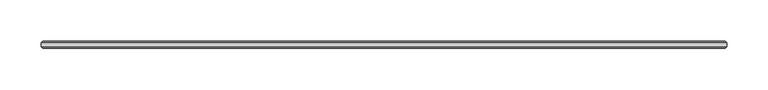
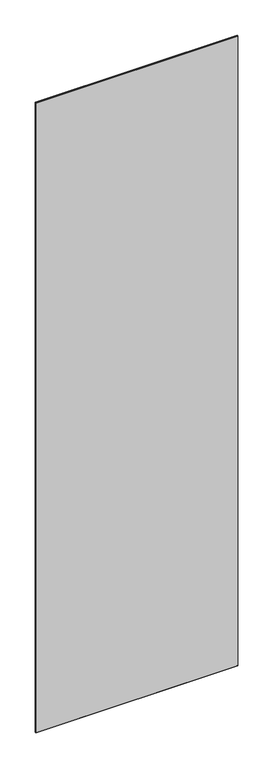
"""IFC4 building model written with IfcOpenShell, lengths in millimetres: plate geometry, 1-AMG-1-Панель одинарный витраж 8, 10 : Смещение 32 Толщина 8mm."""

import ifcopenshell
import ifcopenshell.guid

model = None  # the IFC model being written
_history = None  # IfcOwnerHistory: only IFC2X3 demands one
_inside = {}  # id of a spatial element -> (the spatial element, [elements in it])
_under = {}  # id of a project, library or spatial element -> (it, [spatial elements below it])
_declared = {}  # id of a project -> (the project, [libraries it declares])
_typed = {}  # id of a type object -> (the type object, [elements of that type])
_made_of = {}  # id of a material, layer set ... -> (it, [elements and type objects made of it])


def new_model(schema):
    """Start an empty IFC model of exactly this schema.

    Asked for "IFC4X3", IfcOpenShell would pick the latest addendum, in which some entities
    have other attributes; the version numbers below select the first issue.
    IFC2X3 requires an IfcOwnerHistory on every rooted entity: one is made here for all.
    """
    global model, _history
    if schema == "IFC4X3":
        model = ifcopenshell.file(schema_version=(4, 3, 0, 0))
    else:
        model = ifcopenshell.file(schema=schema)
    _inside.clear()
    _under.clear()
    _declared.clear()
    _typed.clear()
    _made_of.clear()
    _history = None
    if model.schema == "IFC2X3":
        org = make("IfcOrganization", Name="unknown")
        user = make(
            "IfcPersonAndOrganization",
            ThePerson=make("IfcPerson", FamilyName="unknown"),
            TheOrganization=org,
        )
        app = make(
            "IfcApplication",
            ApplicationDeveloper=org,
            Version="unknown",
            ApplicationFullName="unknown",
            ApplicationIdentifier="unknown",
        )
        _history = make(
            "IfcOwnerHistory",
            OwningUser=user,
            OwningApplication=app,
            ChangeAction="ADDED",
            CreationDate=0,
        )
    return model


def make(cls, **values):
    """One entity of the class cls with the attributes given. An attribute that is None is left unset."""
    return model.create_entity(
        cls, **{name: value for name, value in values.items() if value is not None}
    )


def rooted(cls, **values):
    """An entity with a GlobalId (a new one), such as an element, a storey or a relation."""
    return make(cls, GlobalId=ifcopenshell.guid.new(), OwnerHistory=_history, **values)


def si_unit(unit_type, name, prefix=None):
    """IfcSIUnit, for example si_unit("LENGTHUNIT", "METRE", prefix="MILLI")."""
    return make("IfcSIUnit", UnitType=unit_type, Prefix=prefix, Name=name)


def assignment(units):
    """IfcUnitAssignment: the units of a project."""
    return None if units is None else make("IfcUnitAssignment", Units=units)


def point(xyz):
    """IfcCartesianPoint."""
    return None if xyz is None else make("IfcCartesianPoint", Coordinates=xyz)


def direction(xyz):
    """IfcDirection."""
    return None if xyz is None else make("IfcDirection", DirectionRatios=xyz)


def frame(location, z_axis=None, x_axis=None):
    """IfcAxis2Placement3D, a coordinate frame: its origin and axes. An axis left out is left unset."""
    return make(
        "IfcAxis2Placement3D",
        Location=point(location),
        Axis=direction(z_axis),
        RefDirection=direction(x_axis),
    )


def origin():
    """The frame at (0, 0, 0) with its axes left unset."""
    return frame((0.0, 0.0, 0.0))


def place(relative_to, where):
    """IfcLocalPlacement: puts the frame where relative to a parent placement (None: the world)."""
    return make(
        "IfcLocalPlacement", PlacementRelTo=relative_to, RelativePlacement=where
    )


def context(
    kind, dimensions, precision=None, world=None, true_north=None, identifier=None
):
    """IfcGeometricRepresentationContext, for example the 3D "Model" context."""
    return make(
        "IfcGeometricRepresentationContext",
        ContextIdentifier=identifier,
        ContextType=kind,
        CoordinateSpaceDimension=dimensions,
        Precision=precision,
        WorldCoordinateSystem=world,
        TrueNorth=true_north,
    )


def project(units=None, contexts=None):
    """IfcProject with its units and contexts."""
    return rooted(
        "IfcProject",
        Name="project",
        RepresentationContexts=contexts,
        UnitsInContext=assignment(units),
    )


def spatial(cls, under=None, at=None, **own):
    """A site, building, storey or space (cls), placed at a placement, below another one or the project."""
    s = rooted(cls, ObjectPlacement=at, **own)
    if under is not None:
        _under.setdefault(under.id(), (under, []))[1].append(s)
    return s


def faces_of(points, faces, orient=None, outer=None):
    """IfcFace entities. A face is a list of loops; a loop is a list of indices into points, from 0.

    orient and outer hold one flag for each loop. By default every Orientation is true, the
    first loop of a face is its IfcFaceOuterBound and the others are IfcFaceBound.
    """
    made = []
    for i, loops in enumerate(faces):
        bounds = []
        for j, loop in enumerate(loops):
            is_outer = j == 0 if outer is None else outer[i][j]
            bounds.append(
                make(
                    "IfcFaceOuterBound" if is_outer else "IfcFaceBound",
                    Bound=make("IfcPolyLoop", Polygon=[points[k] for k in loop]),
                    Orientation=True if orient is None else orient[i][j],
                )
            )
        made.append(make("IfcFace", Bounds=bounds))
    return made


def faceted_brep(points, faces, orient=None, outer=None, voids=None):
    """IfcFacetedBrep: a solid bounded by flat faces; with voids (closed shells), ...WithVoids."""
    shared = [point(p) for p in points]
    hull = make("IfcClosedShell", CfsFaces=faces_of(shared, faces, orient, outer))
    if voids is None:
        return make("IfcFacetedBrep", Outer=hull)
    return make(
        "IfcFacetedBrepWithVoids",
        Outer=hull,
        Voids=[
            make(cls, CfsFaces=faces_of(shared, fs, o, b)) for cls, fs, o, b in voids
        ],
    )


def shape(context_of_items, identifier, shape_type, items):
    """IfcShapeRepresentation: the items that make up one representation, for example the "Body"."""
    return make(
        "IfcShapeRepresentation",
        ContextOfItems=context_of_items,
        RepresentationIdentifier=identifier,
        RepresentationType=shape_type,
        Items=items,
    )


def source(mapping_origin, context_of_items, identifier, shape_type, items):
    """IfcRepresentationMap: a shape defined once, which mapped items show again and again."""
    return make(
        "IfcRepresentationMap",
        MappingOrigin=mapping_origin,
        MappedRepresentation=shape(context_of_items, identifier, shape_type, items),
    )


def transform(
    local_origin,
    x_axis=None,
    y_axis=None,
    z_axis=None,
    scale=None,
    scale2=None,
    scale3=None,
    uniform=True,
):
    """IfcCartesianTransformationOperator3D, or its non-uniform kind. x_axis, y_axis, z_axis: its Axis1, 2, 3."""
    if uniform:
        return make(
            "IfcCartesianTransformationOperator3D",
            Axis1=direction(x_axis),
            Axis2=direction(y_axis),
            LocalOrigin=point(local_origin),
            Scale=scale,
            Axis3=direction(z_axis),
        )
    return make(
        "IfcCartesianTransformationOperator3DnonUniform",
        Axis1=direction(x_axis),
        Axis2=direction(y_axis),
        LocalOrigin=point(local_origin),
        Scale=scale,
        Axis3=direction(z_axis),
        Scale2=scale2,
        Scale3=scale3,
    )


def mapped(mapping_source, mapping_target):
    """IfcMappedItem: shows the shape of a source again, moved by a transform."""
    return make(
        "IfcMappedItem", MappingSource=mapping_source, MappingTarget=mapping_target
    )


def made_of(thing, what):
    """Note that an element or type object is made of a material, layer set ...; save() writes the relation."""
    if what is not None:
        _made_of.setdefault(what.id(), (what, []))[1].append(thing)
    return thing


def element(
    cls,
    number,
    at=None,
    inside=None,
    cuts=None,
    type_object=None,
    material=None,
    context=None,
    identifier="Body",
    shape_type=None,
    held_by="IfcProductDefinitionShape",
    body=None,
    shapes=None,
    **own,
):
    """One element of the class cls, such as IfcWall. Its Tag is "e" and its number.

    at: its placement. inside: the storey or other place that contains it. cuts: it is an
    opening in that element (IfcRelVoidsElement). A single representation is given by context,
    identifier, shape_type and body (its items); several are given by shapes. held_by: the class
    of the entity that holds the representations. save() writes the other relations.
    """
    e = rooted(cls, Tag="e%d" % number, ObjectPlacement=at, **own)
    if body is not None:
        shapes = [shape(context, identifier, shape_type, body)]
    if shapes is not None:
        e.Representation = make(held_by, Representations=shapes)
    if inside is not None:
        _inside.setdefault(inside.id(), (inside, []))[1].append(e)
    if cuts is not None:
        rooted(
            "IfcRelVoidsElement", RelatingBuildingElement=cuts, RelatedOpeningElement=e
        )
    if type_object is not None:
        _typed.setdefault(type_object.id(), (type_object, []))[1].append(e)
    return made_of(e, material)


def aggregate(whole, parts):
    """IfcRelAggregates: a whole, such as a stair, and the parts it consists of."""
    return rooted("IfcRelAggregates", RelatingObject=whole, RelatedObjects=parts)


def save(model, path):
    """Write the relations noted so far, then the file.

    IfcRelAggregates (storeys below a building ...), IfcRelContainedInSpatialStructure (elements
    in a storey), IfcRelDefinesByType, IfcRelAssociatesMaterial and IfcRelDeclares: one each for
    every whole, place, type object, material and project.
    """
    for whole, parts in _under.values():
        aggregate(whole, parts)
    for where, things in _inside.values():
        rooted(
            "IfcRelContainedInSpatialStructure",
            RelatedElements=things,
            RelatingStructure=where,
        )
    for kind, things in _typed.values():
        rooted("IfcRelDefinesByType", RelatedObjects=things, RelatingType=kind)
    for what, things in _made_of.values():
        rooted("IfcRelAssociatesMaterial", RelatedObjects=things, RelatingMaterial=what)
    for by, libraries in _declared.values():
        rooted("IfcRelDeclares", RelatingContext=by, RelatedDefinitions=libraries)
    model.write(path)


def plate_d026d3fa(model_context):
    return source(origin(), model_context, "Body", "Brep", [
        faceted_brep([(413.9, 29.5038347, 2722.8), (413.9, 34.4961653, 2722.8), (-413.9, 34.4961653, 2722.8), (-413.9, 29.5038347, 2722.8), (413.9, 34.4961653, -7.0), (413.9, 29.5038347, -7.0), (-413.9, 29.5038347, -7.0), (-413.9, 34.4961653, -7.0), (-412.3961653, 36.0, 2721.2961653), (412.3961653, 36.0, 2721.2961653), (412.3961653, 36.0, -5.5039422), (-412.3961653, 36.0, -5.5039422), (412.3961653, 28.0, 2721.2961653), (-412.3961653, 28.0, 2721.2961653), (-412.3961653, 28.0, -5.4961653), (412.3961653, 28.0, -5.4961653)], [[[0, 1, 2, 3]], [[4, 5, 6, 7]], [[8, 9, 10, 11]], [[3, 2, 7, 6]], [[12, 13, 14, 15]], [[1, 0, 5, 4]], [[1, 4, 10, 9]], [[5, 0, 12, 15]], [[7, 2, 8, 11]], [[3, 6, 14, 13]], [[0, 3, 13, 12]], [[2, 1, 9, 8]], [[6, 5, 15, 14]], [[4, 7, 11, 10]]]),
    ])


if __name__ == "__main__":
    model = new_model("IFC4")
    model_context = context("Model", 3, world=origin())
    ifc_project = project(units=[si_unit("LENGTHUNIT", "METRE", prefix="MILLI")], contexts=[model_context])
    site = spatial("IfcSite", under=ifc_project)
    building = spatial("IfcBuilding", under=site)
    placement = place(None, origin())
    plate_shape = plate_d026d3fa(model_context)
    element("IfcPlate", 1, ObjectType="1-AMG-1-Панель одинарный витраж 8, 10 : Смещение 32 Толщина 8mm", at=placement, inside=building, context=model_context, shape_type="MappedRepresentation", body=[
        mapped(plate_shape, transform((0.0, 0.0, 0.0), x_axis=(1.0, 0.0, 0.0), y_axis=(0.0, 1.0, 0.0), z_axis=(0.0, 0.0, 1.0))),
    ])
    save(model, "model.ifc")
